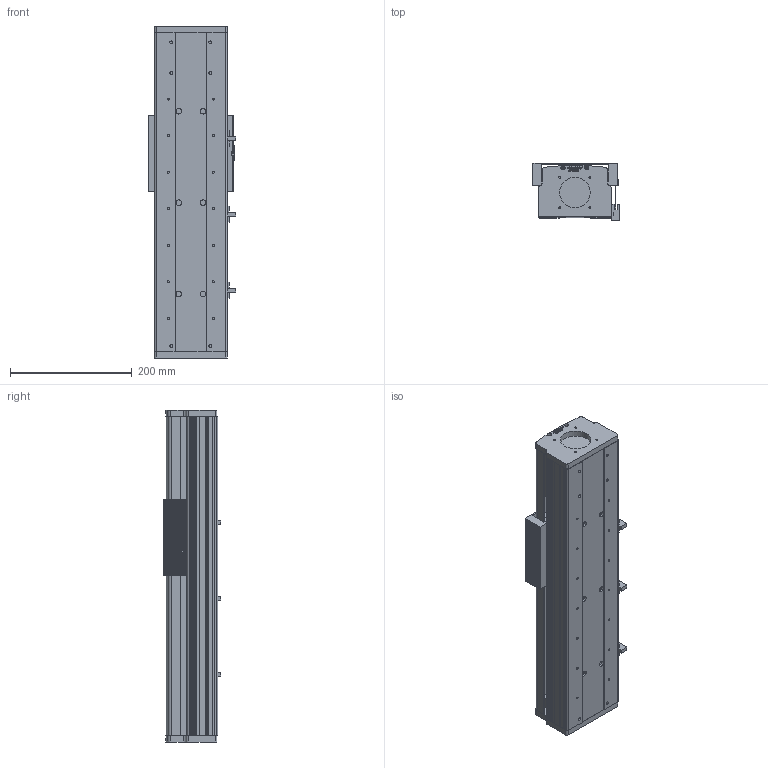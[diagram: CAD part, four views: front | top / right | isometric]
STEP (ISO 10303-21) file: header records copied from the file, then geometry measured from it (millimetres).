
FILE_DESCRIPTION (( 'STEP AP214' ), '1' );
FILE_NAME ('CF120B-C-250-FW.STEP', '2020-07-15T01:54:18', ( '微软用户' ), ( '微软中国' ), 'SwSTEP 2.0', 'SolidWorks 2016', '' );
FILE_SCHEMA (( 'AUTOMOTIVE_DESIGN' ));
Length unit declared in the file: millimetre
Products named in the file (12): CF120B裔啣-250; CF120-2-2賑雄啣; CF120-2-1賑雄輸; EGR15絳寢-250; EGH-15-CABZnew; CF120B臏倰第-250; CF120B-C-250-FW; 嫖萇羲壽; 75-86-95癹弇羲壽覜茼え; 120B珨极嘐隅釱; CF120-2耜啣; CF120-2盓厥釱
Assembly tree (17 placements, depth 2):
  CF120B-C-250-FW
    CF120B臏倰第-250
    EGH-15-CABZnew  x4
    EGR15絳寢-250  x2
    CF120-2-1賑雄輸
    CF120-2-2賑雄啣
    CF120B裔啣-250
    CF120-2盓厥釱
    CF120-2耜啣
    120B珨极嘐隅釱
    75-86-95癹弇羲壽覜茼え
    嫖萇羲壽  x3
Bounding box: 143.6 x 94.1 x 545 mm (x, y, z)
Volume: 2731256.4 mm3; surface area: 927725.7 mm2
Topology: 13 solids, 65 shells, 7427 faces, 27971 edges, 19246 vertices
Faces by surface type: plane 3639, bspline 2474, cylinder 958, cone 132, torus 128, sphere 96
Entity records: 141979 total; most frequent: CARTESIAN_POINT 50876, ORIENTED_EDGE 16090, DIRECTION 12204, EDGE_CURVE 9169, VERTEX_POINT 6272, LINE 5408, VECTOR 5408, AXIS2_PLACEMENT_3D 3398
